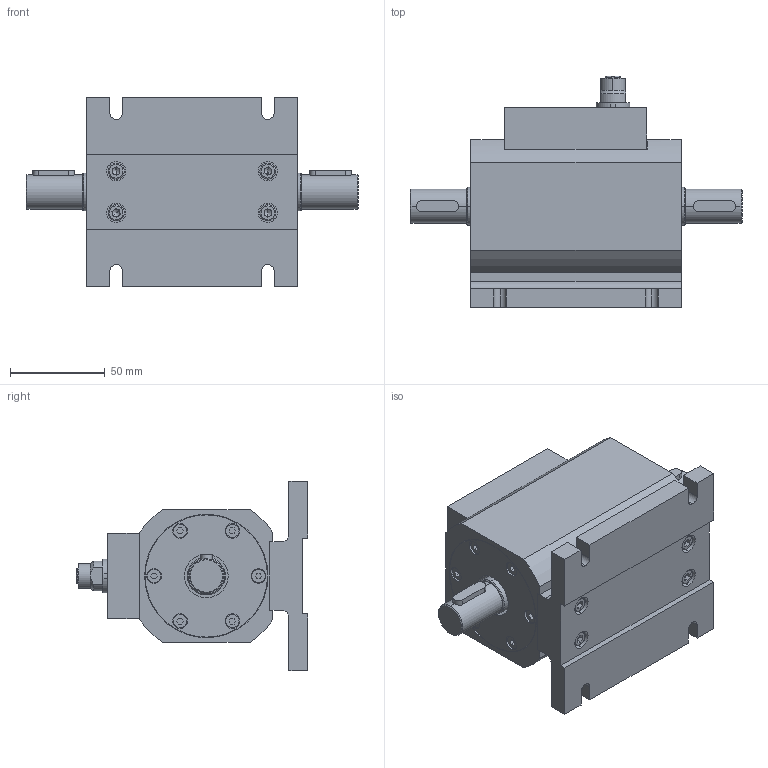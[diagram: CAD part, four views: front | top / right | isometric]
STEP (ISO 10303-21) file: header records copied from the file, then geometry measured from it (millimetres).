
FILE_DESCRIPTION (( 'STEP AP203' ), '1' );
FILE_NAME ('RTS03-100NM.STEP', '2026-05-28T14:33:45', ( '' ), ( '' ), 'SwSTEP 2.0', 'SolidWorks 2019', '' );
FILE_SCHEMA (( 'CONFIG_CONTROL_DESIGN' ));
Length unit declared in the file: millimetre
Products named in the file (1): RTS03-100NM
Bounding box: 175 x 122.1 x 100 mm (x, y, z)
Volume: 715474.1 mm3; surface area: 102775.3 mm2
Topology: 9 solids, 9 shells, 639 faces, 1548 edges, 997 vertices
Faces by surface type: plane 304, cylinder 271, cone 35, bspline 16, torus 12, sphere 1
Entity records: 27643 total; most frequent: CARTESIAN_POINT 12970, ORIENTED_EDGE 3058, DIRECTION 3000, EDGE_CURVE 1529, AXIS2_PLACEMENT_3D 1069, VERTEX_POINT 995, VECTOR 862, LINE 862
